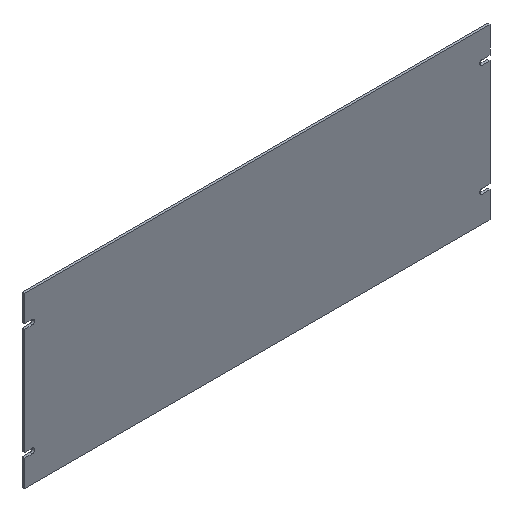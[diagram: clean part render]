
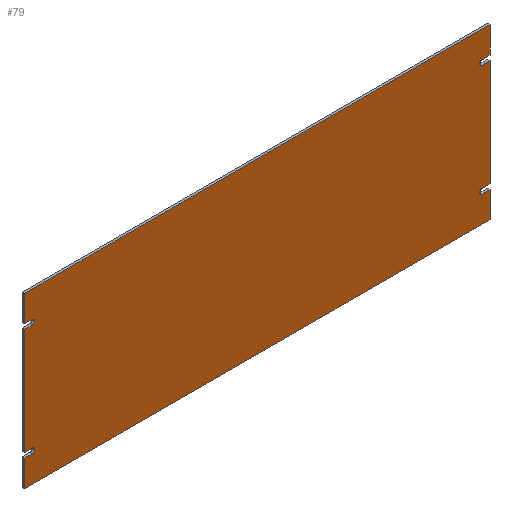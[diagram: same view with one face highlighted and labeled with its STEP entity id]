
A CAD part, isometric view. The second image highlights one B-rep face of the part: STEP entity #79.
In plain terms, the highlighted planar face has unit normal (0, -1, 0).
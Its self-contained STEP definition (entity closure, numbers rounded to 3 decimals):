
#79 = ADVANCED_FACE( '', ( #106 ), #107, .T. );
#106 = FACE_OUTER_BOUND( '', #150, .T. );
#107 = PLANE( '', #151 );
#150 = EDGE_LOOP( '', ( #214, #215, #216, #217, #218, #219, #220, #221, #222, #223, #224, #225, #226, #227, #228, #229, #230, #231, #232, #233 ) );
#151 = AXIS2_PLACEMENT_3D( '', #234, #235, #236 );
#214 = ORIENTED_EDGE( '', *, *, #381, .T. );
#215 = ORIENTED_EDGE( '', *, *, #385, .T. );
#216 = ORIENTED_EDGE( '', *, *, #386, .T. );
#217 = ORIENTED_EDGE( '', *, *, #387, .T. );
#218 = ORIENTED_EDGE( '', *, *, #388, .T. );
#219 = ORIENTED_EDGE( '', *, *, #377, .T. );
#220 = ORIENTED_EDGE( '', *, *, #389, .T. );
#221 = ORIENTED_EDGE( '', *, *, #390, .T. );
#222 = ORIENTED_EDGE( '', *, *, #391, .T. );
#223 = ORIENTED_EDGE( '', *, *, #392, .T. );
#224 = ORIENTED_EDGE( '', *, *, #393, .T. );
#225 = ORIENTED_EDGE( '', *, *, #394, .T. );
#226 = ORIENTED_EDGE( '', *, *, #395, .T. );
#227 = ORIENTED_EDGE( '', *, *, #396, .T. );
#228 = ORIENTED_EDGE( '', *, *, #397, .T. );
#229 = ORIENTED_EDGE( '', *, *, #398, .T. );
#230 = ORIENTED_EDGE( '', *, *, #399, .T. );
#231 = ORIENTED_EDGE( '', *, *, #400, .T. );
#232 = ORIENTED_EDGE( '', *, *, #401, .T. );
#233 = ORIENTED_EDGE( '', *, *, #373, .T. );
#234 = CARTESIAN_POINT( '', ( -304.8, 0., -110.719 ) );
#235 = DIRECTION( '', ( 0., -1., 0. ) );
#236 = DIRECTION( '', ( 0., 0., -1. ) );
#373 = EDGE_CURVE( '', #435, #433, #436, .T. );
#377 = EDGE_CURVE( '', #443, #441, #444, .T. );
#381 = EDGE_CURVE( '', #433, #449, #451, .T. );
#385 = EDGE_CURVE( '', #449, #455, #457, .F. );
#386 = EDGE_CURVE( '', #455, #458, #459, .T. );
#387 = EDGE_CURVE( '', #458, #460, #461, .T. );
#388 = EDGE_CURVE( '', #460, #443, #462, .T. );
#389 = EDGE_CURVE( '', #441, #463, #464, .T. );
#390 = EDGE_CURVE( '', #463, #465, #466, .F. );
#391 = EDGE_CURVE( '', #465, #467, #468, .T. );
#392 = EDGE_CURVE( '', #467, #469, #470, .T. );
#393 = EDGE_CURVE( '', #469, #471, #472, .T. );
#394 = EDGE_CURVE( '', #471, #473, #474, .F. );
#395 = EDGE_CURVE( '', #473, #475, #476, .T. );
#396 = EDGE_CURVE( '', #475, #477, #478, .T. );
#397 = EDGE_CURVE( '', #477, #479, #480, .T. );
#398 = EDGE_CURVE( '', #479, #481, #482, .T. );
#399 = EDGE_CURVE( '', #481, #483, #484, .T. );
#400 = EDGE_CURVE( '', #483, #485, #486, .F. );
#401 = EDGE_CURVE( '', #485, #435, #487, .T. );
#433 = VERTEX_POINT( '', #533 );
#435 = VERTEX_POINT( '', #536 );
#436 = LINE( '', #537, #538 );
#441 = VERTEX_POINT( '', #545 );
#443 = VERTEX_POINT( '', #548 );
#444 = LINE( '', #549, #550 );
#449 = VERTEX_POINT( '', #557 );
#451 = LINE( '', #560, #561 );
#455 = VERTEX_POINT( '', #566 );
#457 = CIRCLE( '', #569, 3.175 );
#458 = VERTEX_POINT( '', #570 );
#459 = LINE( '', #571, #572 );
#460 = VERTEX_POINT( '', #573 );
#461 = LINE( '', #574, #575 );
#462 = LINE( '', #576, #577 );
#463 = VERTEX_POINT( '', #578 );
#464 = LINE( '', #579, #580 );
#465 = VERTEX_POINT( '', #581 );
#466 = CIRCLE( '', #582, 3.175 );
#467 = VERTEX_POINT( '', #583 );
#468 = LINE( '', #584, #585 );
#469 = VERTEX_POINT( '', #586 );
#470 = LINE( '', #587, #588 );
#471 = VERTEX_POINT( '', #589 );
#472 = LINE( '', #590, #591 );
#473 = VERTEX_POINT( '', #592 );
#474 = CIRCLE( '', #593, 3.175 );
#475 = VERTEX_POINT( '', #594 );
#476 = LINE( '', #595, #596 );
#477 = VERTEX_POINT( '', #597 );
#478 = LINE( '', #598, #599 );
#479 = VERTEX_POINT( '', #600 );
#480 = LINE( '', #601, #602 );
#481 = VERTEX_POINT( '', #603 );
#482 = LINE( '', #604, #605 );
#483 = VERTEX_POINT( '', #606 );
#484 = LINE( '', #607, #608 );
#485 = VERTEX_POINT( '', #609 );
#486 = CIRCLE( '', #610, 3.175 );
#487 = LINE( '', #611, #612 );
#533 = CARTESIAN_POINT( '', ( 304.8, 0., 69.85 ) );
#536 = CARTESIAN_POINT( '', ( 304.8, 0., -69.85 ) );
#537 = CARTESIAN_POINT( '', ( 304.8, 0., -110.719 ) );
#538 = VECTOR( '', #685, 1000. );
#545 = CARTESIAN_POINT( '', ( -304.8, 0., 76.2 ) );
#548 = CARTESIAN_POINT( '', ( -304.8, 0., 110.719 ) );
#549 = CARTESIAN_POINT( '', ( -304.8, 0., 110.719 ) );
#550 = VECTOR( '', #689, 1000. );
#557 = CARTESIAN_POINT( '', ( 294.481, 0., 69.85 ) );
#560 = CARTESIAN_POINT( '', ( -304.8, 0., 69.85 ) );
#561 = VECTOR( '', #693, 1000. );
#566 = CARTESIAN_POINT( '', ( 294.481, 0., 76.2 ) );
#569 = AXIS2_PLACEMENT_3D( '', #699, #700, #701 );
#570 = CARTESIAN_POINT( '', ( 304.8, 0., 76.2 ) );
#571 = CARTESIAN_POINT( '', ( -304.8, 0., 76.2 ) );
#572 = VECTOR( '', #702, 1000. );
#573 = CARTESIAN_POINT( '', ( 304.8, 0., 110.719 ) );
#574 = CARTESIAN_POINT( '', ( 304.8, 0., -110.719 ) );
#575 = VECTOR( '', #703, 1000. );
#576 = CARTESIAN_POINT( '', ( 304.8, 0., 110.719 ) );
#577 = VECTOR( '', #704, 1000. );
#578 = CARTESIAN_POINT( '', ( -294.481, 0., 76.2 ) );
#579 = CARTESIAN_POINT( '', ( -304.8, 0., 76.2 ) );
#580 = VECTOR( '', #705, 1000. );
#581 = CARTESIAN_POINT( '', ( -294.481, 0., 69.85 ) );
#582 = AXIS2_PLACEMENT_3D( '', #706, #707, #708 );
#583 = CARTESIAN_POINT( '', ( -304.8, 0., 69.85 ) );
#584 = CARTESIAN_POINT( '', ( -304.8, 0., 69.85 ) );
#585 = VECTOR( '', #709, 1000. );
#586 = CARTESIAN_POINT( '', ( -304.8, 0., -69.85 ) );
#587 = CARTESIAN_POINT( '', ( -304.8, 0., 110.719 ) );
#588 = VECTOR( '', #710, 1000. );
#589 = CARTESIAN_POINT( '', ( -294.481, 0., -69.85 ) );
#590 = CARTESIAN_POINT( '', ( -304.8, 0., -69.85 ) );
#591 = VECTOR( '', #711, 1000. );
#592 = CARTESIAN_POINT( '', ( -294.481, 0., -76.2 ) );
#593 = AXIS2_PLACEMENT_3D( '', #712, #713, #714 );
#594 = CARTESIAN_POINT( '', ( -304.8, 0., -76.2 ) );
#595 = CARTESIAN_POINT( '', ( -304.8, 0., -76.2 ) );
#596 = VECTOR( '', #715, 1000. );
#597 = CARTESIAN_POINT( '', ( -304.8, 0., -110.719 ) );
#598 = CARTESIAN_POINT( '', ( -304.8, 0., 110.719 ) );
#599 = VECTOR( '', #716, 1000. );
#600 = CARTESIAN_POINT( '', ( 304.8, 0., -110.719 ) );
#601 = CARTESIAN_POINT( '', ( -304.8, 0., -110.719 ) );
#602 = VECTOR( '', #717, 1000. );
#603 = CARTESIAN_POINT( '', ( 304.8, 0., -76.2 ) );
#604 = CARTESIAN_POINT( '', ( 304.8, 0., -110.719 ) );
#605 = VECTOR( '', #718, 1000. );
#606 = CARTESIAN_POINT( '', ( 294.481, 0., -76.2 ) );
#607 = CARTESIAN_POINT( '', ( -304.8, 0., -76.2 ) );
#608 = VECTOR( '', #719, 1000. );
#609 = CARTESIAN_POINT( '', ( 294.481, 0., -69.85 ) );
#610 = AXIS2_PLACEMENT_3D( '', #720, #721, #722 );
#611 = CARTESIAN_POINT( '', ( -304.8, 0., -69.85 ) );
#612 = VECTOR( '', #723, 1000. );
#685 = DIRECTION( '', ( 0., 0., 1. ) );
#689 = DIRECTION( '', ( 0., 0., -1. ) );
#693 = DIRECTION( '', ( -1., 0., 0. ) );
#699 = CARTESIAN_POINT( '', ( 294.481, 0., 73.025 ) );
#700 = DIRECTION( '', ( 0., -1., 0. ) );
#701 = DIRECTION( '', ( 0., 0., -1. ) );
#702 = DIRECTION( '', ( 1., 0., 0. ) );
#703 = DIRECTION( '', ( 0., 0., 1. ) );
#704 = DIRECTION( '', ( -1., 0., 0. ) );
#705 = DIRECTION( '', ( 1., 0., 0. ) );
#706 = CARTESIAN_POINT( '', ( -294.481, 0., 73.025 ) );
#707 = DIRECTION( '', ( 0., -1., 0. ) );
#708 = DIRECTION( '', ( 0., 0., -1. ) );
#709 = DIRECTION( '', ( -1., 0., 0. ) );
#710 = DIRECTION( '', ( 0., 0., -1. ) );
#711 = DIRECTION( '', ( 1., 0., 0. ) );
#712 = CARTESIAN_POINT( '', ( -294.481, 0., -73.025 ) );
#713 = DIRECTION( '', ( 0., -1., 0. ) );
#714 = DIRECTION( '', ( 0., 0., -1. ) );
#715 = DIRECTION( '', ( -1., 0., 0. ) );
#716 = DIRECTION( '', ( 0., 0., -1. ) );
#717 = DIRECTION( '', ( 1., 0., 0. ) );
#718 = DIRECTION( '', ( 0., 0., 1. ) );
#719 = DIRECTION( '', ( -1., 0., 0. ) );
#720 = CARTESIAN_POINT( '', ( 294.481, 0., -73.025 ) );
#721 = DIRECTION( '', ( 0., -1., 0. ) );
#722 = DIRECTION( '', ( 0., 0., -1. ) );
#723 = DIRECTION( '', ( 1., 0., 0. ) );
